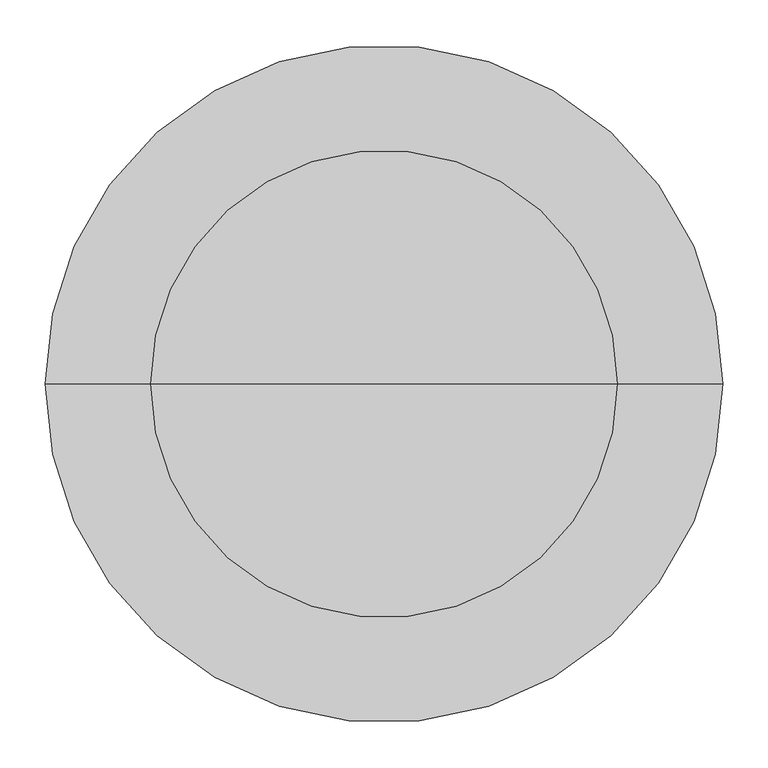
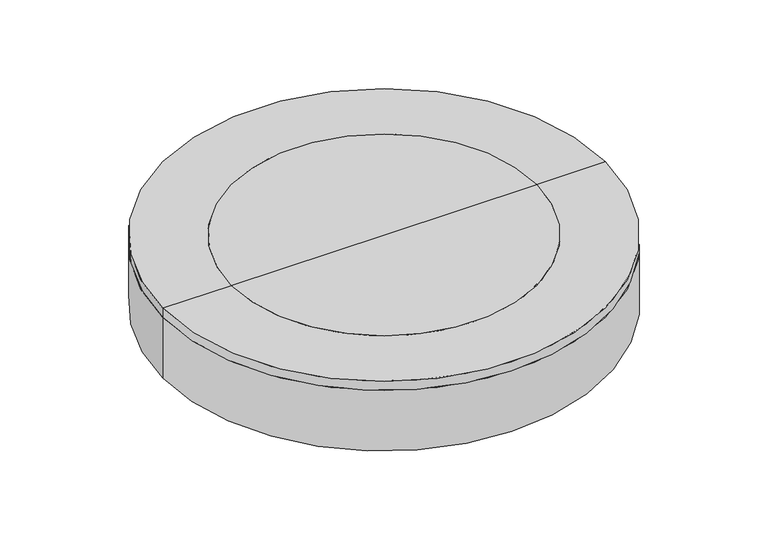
"""IFC4 building model written with IfcOpenShell, lengths in millimetres: unitary equipment geometry, ME_PE_UN_Mulimax loadclass B125_ACO : Duo cover screwed shut odour-proof."""

from ifc_helpers import new_model, si_unit, frame, origin, place, context, project, spatial, polyline, circle_curve, source, transform, mapped, element, save
from ifc_brep_helpers import plane_surface, cylinder_surface, revolved_surface, advanced_brep


def unitary_equipment_4ad64c23(model_context):
    return source(origin(), model_context, "Body", "AdvancedBrep", [
        advanced_brep(
        [(375.0, 0.0, -16.5155912), (-375.0, 0.0, -16.5155912), (-258.4234365, 0.0, -16.5155912), (258.4234365, 0.0, -16.5155912), (375.0, 0.0, -125.0), (-375.0, 0.0, -125.0), (0.0, 0.0, -125.0), (258.4234365, 0.0, 0.0), (-258.4234365, 0.0, 0.0), (0.0, 0.0, 0.0)],
        [
            (0, 1, circle_curve(frame((0.0, 0.0, -16.5155912), z_axis=(0.0, 0.0, 1.0), x_axis=(-1.0, 0.0, 0.0)), 375.0)),
            (1, 2),
            (2, 3, circle_curve(frame((0.0, 0.0, -16.5155912), z_axis=(0.0, 0.0, -1.0), x_axis=(-1.0, 0.0, 0.0)), 258.4234365)),
            (3, 0),
            (1, 0, circle_curve(frame((0.0, 0.0, -16.5155912), z_axis=(0.0, 0.0, 1.0), x_axis=(-1.0, 0.0, 0.0)), 375.0)),
            (3, 2, circle_curve(frame((0.0, 0.0, -16.5155912), z_axis=(0.0, 0.0, -1.0), x_axis=(-1.0, 0.0, 0.0)), 258.4234365)),
            (4, 5, circle_curve(frame((0.0, 0.0, -125.0), z_axis=(0.0, 0.0, 1.0), x_axis=(-1.0, 0.0, 0.0)), 375.0)),
            (5, 1),
            (0, 4),
            (5, 4, circle_curve(frame((0.0, 0.0, -125.0), z_axis=(0.0, 0.0, 1.0), x_axis=(-1.0, 0.0, 0.0)), 375.0)),
            (6, 5),
            (4, 6),
            (7, 8, circle_curve(frame((0.0, 0.0, 0.0), z_axis=(0.0, 0.0, 1.0), x_axis=(-1.0, 0.0, 0.0)), 258.4234365)),
            (8, 9),
            (9, 7),
            (8, 7, circle_curve(frame((0.0, 0.0, 0.0), z_axis=(0.0, 0.0, 1.0), x_axis=(-1.0, 0.0, 0.0)), 258.4234365)),
            (2, 8),
            (7, 3),
        ],
        [
            plane_surface(frame((0.0, 0.0, -16.5155912), z_axis=(0.0, 0.0, 1.0), x_axis=(-1.0, 0.0, 0.0))),
            cylinder_surface(frame((0.0, 0.0, 108.4844088), z_axis=(0.0, 0.0, -1.0), x_axis=(-1.0, 0.0, 0.0)), 375.0),
            plane_surface(frame((0.0, 0.0, -125.0), z_axis=(0.0, 0.0, -1.0), x_axis=(-1.0, 0.0, 0.0))),
            plane_surface(frame((0.0, 0.0, 0.0), z_axis=(0.0, 0.0, 1.0), x_axis=(-1.0, 0.0, 0.0))),
            cylinder_surface(frame((0.0, 0.0, 108.4844088), z_axis=(0.0, 0.0, -1.0), x_axis=(-1.0, 0.0, 0.0)), 258.4234365),
        ],
        [
            (0, [[1, 2, 3, 4]]),
            (0, [[5, -4, 6, -2]]),
            (1, [[7, 8, -1, 9]]),
            (1, [[10, -9, -5, -8]]),
            (2, [[11, -7, 12]]),
            (2, [[-12, -10, -11]]),
            (3, [[13, 14, 15]]),
            (3, [[16, -15, -14]]),
            (4, [[-3, 17, -13, 18]]),
            (4, [[-6, -18, -16, -17]]),
        ],
    ),
        advanced_brep(
        [(375.0, 0.0, 0.0), (-375.0, 0.0, 0.0), (-258.1778212, 0.0, 0.0), (258.1778212, 0.0, 0.0), (375.0, 0.0, -16.5155912), (-375.0, 0.0, -16.5155912), (258.1778212, 0.0, -16.5155912), (-258.1778212, 0.0, -16.5155912)],
        [
            (0, 1, circle_curve(frame((0.0, 0.0, 0.0), z_axis=(0.0, 0.0, 1.0), x_axis=(-1.0, 0.0, 0.0)), 375.0)),
            (1, 2),
            (2, 3, circle_curve(frame((0.0, 0.0, 0.0), z_axis=(0.0, 0.0, -1.0), x_axis=(-1.0, 0.0, 0.0)), 258.1778212)),
            (3, 0),
            (1, 0, circle_curve(frame((0.0, 0.0, 0.0), z_axis=(0.0, 0.0, 1.0), x_axis=(-1.0, 0.0, 0.0)), 375.0)),
            (3, 2, circle_curve(frame((0.0, 0.0, 0.0), z_axis=(0.0, 0.0, -1.0), x_axis=(-1.0, 0.0, 0.0)), 258.1778212)),
            (4, 5, circle_curve(frame((0.0, 0.0, -16.5155912), z_axis=(0.0, 0.0, 1.0), x_axis=(-1.0, 0.0, 0.0)), 375.0)),
            (5, 1),
            (0, 4),
            (5, 4, circle_curve(frame((0.0, 0.0, -16.5155912), z_axis=(0.0, 0.0, 1.0), x_axis=(-1.0, 0.0, 0.0)), 375.0)),
            (6, 7, circle_curve(frame((0.0, 0.0, -16.5155912), z_axis=(0.0, 0.0, 1.0), x_axis=(-1.0, 0.0, 0.0)), 258.1778212)),
            (7, 5),
            (4, 6),
            (7, 6, circle_curve(frame((0.0, 0.0, -16.5155912), z_axis=(0.0, 0.0, 1.0), x_axis=(-1.0, 0.0, 0.0)), 258.1778212)),
            (2, 7),
            (6, 3),
        ],
        [
            plane_surface(frame((0.0, 0.0, 0.0), z_axis=(0.0, 0.0, 1.0), x_axis=(-1.0, 0.0, 0.0))),
            cylinder_surface(frame((0.0, 0.0, 115.0), z_axis=(0.0, 0.0, -1.0), x_axis=(-1.0, 0.0, 0.0)), 375.0),
            plane_surface(frame((0.0, 0.0, -16.5155912), z_axis=(0.0, 0.0, -1.0), x_axis=(-1.0, 0.0, 0.0))),
            revolved_surface(polyline([(-258.1778212, 0.0, -16.51559119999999), (-258.1778212, 0.0, 0.0)]), (0.0, 0.0, 115.0), (0.0, 0.0, -1.0)),
        ],
        [
            (0, [[1, 2, 3, 4]]),
            (0, [[5, -4, 6, -2]]),
            (1, [[7, 8, -1, 9]]),
            (1, [[10, -9, -5, -8]]),
            (2, [[11, 12, -7, 13]]),
            (2, [[14, -13, -10, -12]]),
            (3, [[-3, 15, -11, 16]]),
            (3, [[-6, -16, -14, -15]]),
        ],
    ),
    ])


if __name__ == "__main__":
    model = new_model("IFC4")
    model_context = context("Model", 3, world=origin())
    ifc_project = project(units=[si_unit("LENGTHUNIT", "METRE", prefix="MILLI")], contexts=[model_context])
    site = spatial("IfcSite", under=ifc_project)
    building = spatial("IfcBuilding", under=site)
    placement = place(None, origin())
    unitary_equipment_shape = unitary_equipment_4ad64c23(model_context)
    element("IfcUnitaryEquipment", 1, ObjectType="ME_PE_UN_Mulimax loadclass B125_ACO : Duo cover screwed shut odour-proof", at=placement, inside=building, context=model_context, shape_type="MappedRepresentation", body=[
        mapped(unitary_equipment_shape, transform((0.0, 0.0, 0.0), x_axis=(1.0, 0.0, 0.0), y_axis=(0.0, 1.0, 0.0), z_axis=(0.0, 0.0, 1.0))),
    ])
    save(model, "model.ifc")
